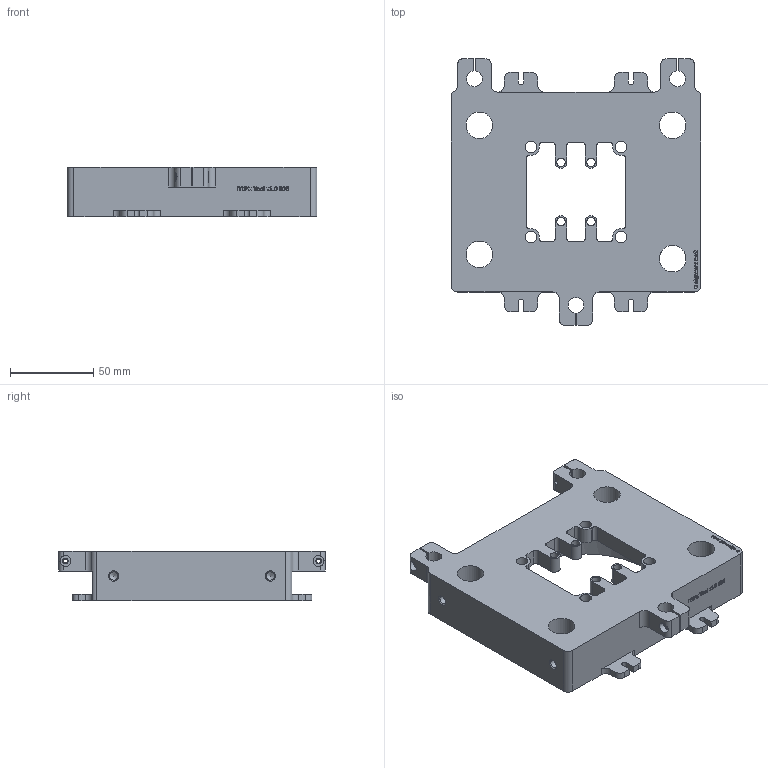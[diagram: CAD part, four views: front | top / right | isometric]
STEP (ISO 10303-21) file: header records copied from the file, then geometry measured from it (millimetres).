
FILE_DESCRIPTION(/* description */ ('Base Body'),/* implementation_level */ '2;1');
FILE_NAME(/* name */ 'ITPT.02.00.001.stp',/* time_stamp */ '2025-02-12T14:34:37+01:00',/* author */ ('Rüdiger Widera'),/* organization */ (''),/* preprocessor_version */ 'ST-DEVELOPER v19.2',/* originating_system */ 'Autodesk Inventor 2024',/* authorisation */ '');
FILE_SCHEMA (('AUTOMOTIVE_DESIGN { 1 0 10303 214 3 1 1 }'));
Length unit declared in the file: millimetre
Products named in the file (1): ITPT.02.00.001
Bounding box: 150 x 160 x 30 mm (x, y, z)
Volume: 310774.5 mm3; surface area: 72834.5 mm2
Topology: 1 solids, 1 shells, 762 faces, 2083 edges, 1368 vertices
Faces by surface type: bspline 288, plane 280, cylinder 127, cone 67
Full cylindrical faces by diameter (mm): 2.459 x29, 3 x2, 3.4 x3, 4.917 x4, 5 x4, 6.5 x3, 7 x4, 16 x4, 32 x4, 100 x1
Entity records: 29400 total; most frequent: CARTESIAN_POINT 11780, ORIENTED_EDGE 4098, DIRECTION 2716, EDGE_CURVE 2049, VERTEX_POINT 1368, LINE 1166, VECTOR 1166, EDGE_LOOP 879
